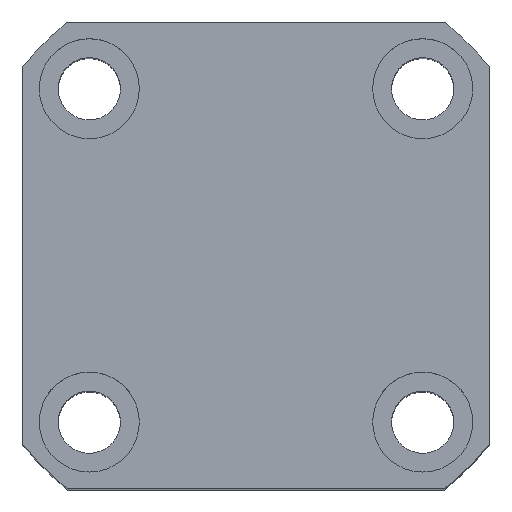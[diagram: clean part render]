
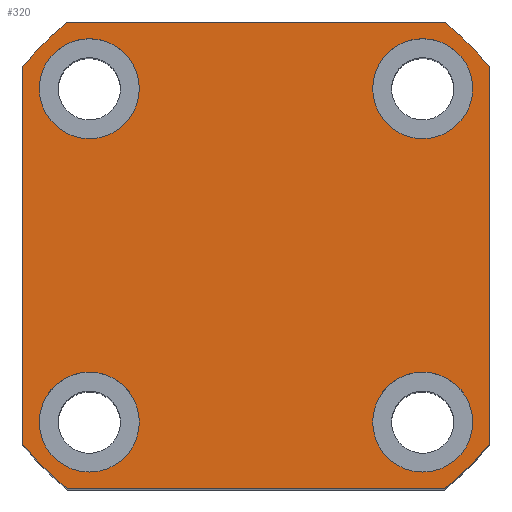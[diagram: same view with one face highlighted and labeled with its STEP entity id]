
A CAD part, top view. The second image highlights one B-rep face of the part: STEP entity #320.
In plain terms, the highlighted planar face has unit normal (0, 0, 1).
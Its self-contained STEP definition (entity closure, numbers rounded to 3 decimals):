
#111 = CIRCLE ( 'NONE', #2162, 27. ) ;
#283 = CARTESIAN_POINT ( 'NONE',  ( -21., -21., 63. ) ) ;
#320 = ADVANCED_FACE ( 'NONE', ( #10020, #7502, #12920, #5015, #7169 ), #6014, .T. ) ;
#363 = CARTESIAN_POINT ( 'NONE',  ( 21., -16.971, 63. ) ) ;
#413 = DIRECTION ( 'NONE',  ( 0., 0., 1. ) ) ;
#436 = VERTEX_POINT ( 'NONE', #4880 ) ;
#449 = VERTEX_POINT ( 'NONE', #7048 ) ;
#461 = AXIS2_PLACEMENT_3D ( 'NONE', #9117, #2722, #10196 ) ;
#501 = CIRCLE ( 'NONE', #461, 4.5 ) ;
#521 = CARTESIAN_POINT ( 'NONE',  ( 16.971, 21., 63. ) ) ;
#526 = ORIENTED_EDGE ( 'NONE', *, *, #1426, .T. ) ;
#592 = VERTEX_POINT ( 'NONE', #11205 ) ;
#746 = CARTESIAN_POINT ( 'NONE',  ( -10.5, 15.002, 63. ) ) ;
#836 = VECTOR ( 'NONE', #5264, 1000. ) ;
#900 = ORIENTED_EDGE ( 'NONE', *, *, #6702, .T. ) ;
#983 = VERTEX_POINT ( 'NONE', #363 ) ;
#1097 = CIRCLE ( 'NONE', #12423, 4.5 ) ;
#1164 = CARTESIAN_POINT ( 'NONE',  ( 15., 15., 63. ) ) ;
#1426 = EDGE_CURVE ( 'NONE', #983, #11617, #11544, .T. ) ;
#1448 = EDGE_LOOP ( 'NONE', ( #8942, #6133 ) ) ;
#1532 = CIRCLE ( 'NONE', #9740, 27. ) ;
#1577 = LINE ( 'NONE', #6399, #9772 ) ;
#1694 = ORIENTED_EDGE ( 'NONE', *, *, #5368, .T. ) ;
#1831 = CARTESIAN_POINT ( 'NONE',  ( 15., -14.998, 63. ) ) ;
#2155 = CARTESIAN_POINT ( 'NONE',  ( 0., 0., 63. ) ) ;
#2162 = AXIS2_PLACEMENT_3D ( 'NONE', #9453, #3077, #10542 ) ;
#2214 = DIRECTION ( 'NONE',  ( 1., 0., 0. ) ) ;
#2258 = CARTESIAN_POINT ( 'NONE',  ( 21., 16.971, 63. ) ) ;
#2459 = DIRECTION ( 'NONE',  ( -1., 0., 0. ) ) ;
#2483 = CARTESIAN_POINT ( 'NONE',  ( 10.5, 15., 63. ) ) ;
#2598 = EDGE_CURVE ( 'NONE', #13698, #5273, #13054, .T. ) ;
#2672 = AXIS2_PLACEMENT_3D ( 'NONE', #1831, #9307, #2921 ) ;
#2722 = DIRECTION ( 'NONE',  ( 0., 0., 1. ) ) ;
#2921 = DIRECTION ( 'NONE',  ( 1., 0., 0. ) ) ;
#3064 = LINE ( 'NONE', #8857, #11601 ) ;
#3077 = DIRECTION ( 'NONE',  ( 0., 0., 1. ) ) ;
#3152 = DIRECTION ( 'NONE',  ( 0., 0., 1. ) ) ;
#3219 = VERTEX_POINT ( 'NONE', #521 ) ;
#3248 = DIRECTION ( 'NONE',  ( 1., 0., 0. ) ) ;
#3592 = ORIENTED_EDGE ( 'NONE', *, *, #4555, .F. ) ;
#3608 = CIRCLE ( 'NONE', #13009, 27. ) ;
#3688 = CARTESIAN_POINT ( 'NONE',  ( 10.5, -14.998, 63. ) ) ;
#3986 = CARTESIAN_POINT ( 'NONE',  ( 15., -14.998, 63. ) ) ;
#4046 = CARTESIAN_POINT ( 'NONE',  ( 19.5, 15., 63. ) ) ;
#4089 = CARTESIAN_POINT ( 'NONE',  ( 16.971, -21., 63. ) ) ;
#4346 = EDGE_CURVE ( 'NONE', #10606, #4920, #6119, .T. ) ;
#4395 = AXIS2_PLACEMENT_3D ( 'NONE', #11928, #5490, #13038 ) ;
#4549 = CARTESIAN_POINT ( 'NONE',  ( -16.971, 21., 63. ) ) ;
#4551 = EDGE_LOOP ( 'NONE', ( #526, #13277, #9218, #1694, #11596, #5210, #8726, #900 ) ) ;
#4555 = EDGE_CURVE ( 'NONE', #11642, #8467, #5431, .T. ) ;
#4725 = CARTESIAN_POINT ( 'NONE',  ( -15., -14.998, 63. ) ) ;
#4789 = AXIS2_PLACEMENT_3D ( 'NONE', #1164, #8623, #2214 ) ;
#4793 = VERTEX_POINT ( 'NONE', #4549 ) ;
#4880 = CARTESIAN_POINT ( 'NONE',  ( -21., -16.971, 63. ) ) ;
#4920 = VERTEX_POINT ( 'NONE', #746 ) ;
#5015 = FACE_BOUND ( 'NONE', #7572, .T. ) ;
#5036 = DIRECTION ( 'NONE',  ( 1., 0., 0. ) ) ;
#5210 = ORIENTED_EDGE ( 'NONE', *, *, #13052, .T. ) ;
#5264 = DIRECTION ( 'NONE',  ( 0., 1., 0. ) ) ;
#5273 = VERTEX_POINT ( 'NONE', #2483 ) ;
#5368 = EDGE_CURVE ( 'NONE', #4793, #13707, #3608, .T. ) ;
#5378 = CARTESIAN_POINT ( 'NONE',  ( 0., 0., 63. ) ) ;
#5386 = EDGE_CURVE ( 'NONE', #8467, #11642, #11490, .T. ) ;
#5399 = CARTESIAN_POINT ( 'NONE',  ( 15., 15., 63. ) ) ;
#5431 = CIRCLE ( 'NONE', #12828, 4.5 ) ;
#5490 = DIRECTION ( 'NONE',  ( 0., 0., 1. ) ) ;
#5800 = DIRECTION ( 'NONE',  ( 1., 0., 0. ) ) ;
#6014 = PLANE ( 'NONE',  #12229 ) ;
#6076 = DIRECTION ( 'NONE',  ( 0., 0., 1. ) ) ;
#6119 = CIRCLE ( 'NONE', #6314, 4.5 ) ;
#6133 = ORIENTED_EDGE ( 'NONE', *, *, #4346, .F. ) ;
#6314 = AXIS2_PLACEMENT_3D ( 'NONE', #6782, #413, #7864 ) ;
#6366 = CIRCLE ( 'NONE', #6660, 4.5 ) ;
#6392 = ORIENTED_EDGE ( 'NONE', *, *, #2598, .F. ) ;
#6399 = CARTESIAN_POINT ( 'NONE',  ( -21., 21., 63. ) ) ;
#6478 = DIRECTION ( 'NONE',  ( 1., 0., 0. ) ) ;
#6521 = DIRECTION ( 'NONE',  ( 1., 0., 0. ) ) ;
#6525 = DIRECTION ( 'NONE',  ( 1., 0., 0. ) ) ;
#6529 = VECTOR ( 'NONE', #6525, 1000. ) ;
#6552 = CARTESIAN_POINT ( 'NONE',  ( 21., 21., 63. ) ) ;
#6660 = AXIS2_PLACEMENT_3D ( 'NONE', #4725, #12244, #5800 ) ;
#6702 = EDGE_CURVE ( 'NONE', #13726, #983, #1532, .T. ) ;
#6782 = CARTESIAN_POINT ( 'NONE',  ( -15., 15.002, 63. ) ) ;
#6818 = EDGE_CURVE ( 'NONE', #449, #13726, #9056, .T. ) ;
#6877 = EDGE_CURVE ( 'NONE', #3219, #4793, #3064, .T. ) ;
#7048 = CARTESIAN_POINT ( 'NONE',  ( -16.971, -21., 63. ) ) ;
#7134 = ORIENTED_EDGE ( 'NONE', *, *, #5386, .F. ) ;
#7169 = FACE_OUTER_BOUND ( 'NONE', #4551, .T. ) ;
#7237 = EDGE_CURVE ( 'NONE', #11974, #592, #6366, .T. ) ;
#7260 = ORIENTED_EDGE ( 'NONE', *, *, #13881, .F. ) ;
#7312 = CIRCLE ( 'NONE', #13407, 27. ) ;
#7502 = FACE_BOUND ( 'NONE', #9761, .T. ) ;
#7572 = EDGE_LOOP ( 'NONE', ( #6392, #7260 ) ) ;
#7610 = EDGE_LOOP ( 'NONE', ( #3592, #7134 ) ) ;
#7864 = DIRECTION ( 'NONE',  ( 1., 0., 0. ) ) ;
#8467 = VERTEX_POINT ( 'NONE', #3688 ) ;
#8623 = DIRECTION ( 'NONE',  ( 0., 0., 1. ) ) ;
#8726 = ORIENTED_EDGE ( 'NONE', *, *, #6818, .T. ) ;
#8857 = CARTESIAN_POINT ( 'NONE',  ( -21., 21., 63. ) ) ;
#8942 = ORIENTED_EDGE ( 'NONE', *, *, #11968, .F. ) ;
#9056 = LINE ( 'NONE', #283, #6529 ) ;
#9117 = CARTESIAN_POINT ( 'NONE',  ( -15., -14.998, 63. ) ) ;
#9218 = ORIENTED_EDGE ( 'NONE', *, *, #6877, .T. ) ;
#9307 = DIRECTION ( 'NONE',  ( 0., 0., 1. ) ) ;
#9453 = CARTESIAN_POINT ( 'NONE',  ( 0., 0., 63. ) ) ;
#9533 = CARTESIAN_POINT ( 'NONE',  ( 0., 0., 63. ) ) ;
#9638 = DIRECTION ( 'NONE',  ( 0., 0., 1. ) ) ;
#9644 = DIRECTION ( 'NONE',  ( 0., -1., 0. ) ) ;
#9675 = CARTESIAN_POINT ( 'NONE',  ( -10.5, -14.998, 63. ) ) ;
#9740 = AXIS2_PLACEMENT_3D ( 'NONE', #2155, #9638, #3248 ) ;
#9761 = EDGE_LOOP ( 'NONE', ( #12703, #9997 ) ) ;
#9772 = VECTOR ( 'NONE', #9644, 1000. ) ;
#9997 = ORIENTED_EDGE ( 'NONE', *, *, #10608, .F. ) ;
#10020 = FACE_BOUND ( 'NONE', #1448, .T. ) ;
#10196 = DIRECTION ( 'NONE',  ( 1., 0., 0. ) ) ;
#10477 = CARTESIAN_POINT ( 'NONE',  ( -21., 16.971, 63. ) ) ;
#10542 = DIRECTION ( 'NONE',  ( 1., 0., 0. ) ) ;
#10606 = VERTEX_POINT ( 'NONE', #13439 ) ;
#10608 = EDGE_CURVE ( 'NONE', #592, #11974, #501, .T. ) ;
#10612 = DIRECTION ( 'NONE',  ( 1., 0., 0. ) ) ;
#10938 = EDGE_CURVE ( 'NONE', #11617, #3219, #7312, .T. ) ;
#11205 = CARTESIAN_POINT ( 'NONE',  ( -19.5, -14.998, 63. ) ) ;
#11466 = DIRECTION ( 'NONE',  ( 0., 0., 1. ) ) ;
#11490 = CIRCLE ( 'NONE', #2672, 4.5 ) ;
#11544 = LINE ( 'NONE', #6552, #836 ) ;
#11583 = DIRECTION ( 'NONE',  ( 0., 0., 1. ) ) ;
#11596 = ORIENTED_EDGE ( 'NONE', *, *, #13230, .T. ) ;
#11601 = VECTOR ( 'NONE', #2459, 1000. ) ;
#11617 = VERTEX_POINT ( 'NONE', #2258 ) ;
#11642 = VERTEX_POINT ( 'NONE', #11911 ) ;
#11911 = CARTESIAN_POINT ( 'NONE',  ( 19.5, -14.998, 63. ) ) ;
#11928 = CARTESIAN_POINT ( 'NONE',  ( -15., 15.002, 63. ) ) ;
#11968 = EDGE_CURVE ( 'NONE', #4920, #10606, #12218, .T. ) ;
#11974 = VERTEX_POINT ( 'NONE', #9675 ) ;
#12218 = CIRCLE ( 'NONE', #4395, 4.5 ) ;
#12229 = AXIS2_PLACEMENT_3D ( 'NONE', #5378, #11583, #6521 ) ;
#12244 = DIRECTION ( 'NONE',  ( 0., 0., 1. ) ) ;
#12423 = AXIS2_PLACEMENT_3D ( 'NONE', #5399, #12947, #6478 ) ;
#12527 = CARTESIAN_POINT ( 'NONE',  ( 0., 0., 63. ) ) ;
#12703 = ORIENTED_EDGE ( 'NONE', *, *, #7237, .F. ) ;
#12828 = AXIS2_PLACEMENT_3D ( 'NONE', #3986, #11466, #5036 ) ;
#12920 = FACE_BOUND ( 'NONE', #7610, .T. ) ;
#12947 = DIRECTION ( 'NONE',  ( 0., 0., 1. ) ) ;
#13009 = AXIS2_PLACEMENT_3D ( 'NONE', #12527, #6076, #13626 ) ;
#13038 = DIRECTION ( 'NONE',  ( 1., 0., 0. ) ) ;
#13052 = EDGE_CURVE ( 'NONE', #436, #449, #111, .T. ) ;
#13054 = CIRCLE ( 'NONE', #4789, 4.5 ) ;
#13230 = EDGE_CURVE ( 'NONE', #13707, #436, #1577, .T. ) ;
#13277 = ORIENTED_EDGE ( 'NONE', *, *, #10938, .T. ) ;
#13407 = AXIS2_PLACEMENT_3D ( 'NONE', #9533, #3152, #10612 ) ;
#13439 = CARTESIAN_POINT ( 'NONE',  ( -19.5, 15.002, 63. ) ) ;
#13626 = DIRECTION ( 'NONE',  ( 1., 0., 0. ) ) ;
#13698 = VERTEX_POINT ( 'NONE', #4046 ) ;
#13707 = VERTEX_POINT ( 'NONE', #10477 ) ;
#13726 = VERTEX_POINT ( 'NONE', #4089 ) ;
#13881 = EDGE_CURVE ( 'NONE', #5273, #13698, #1097, .T. ) ;
